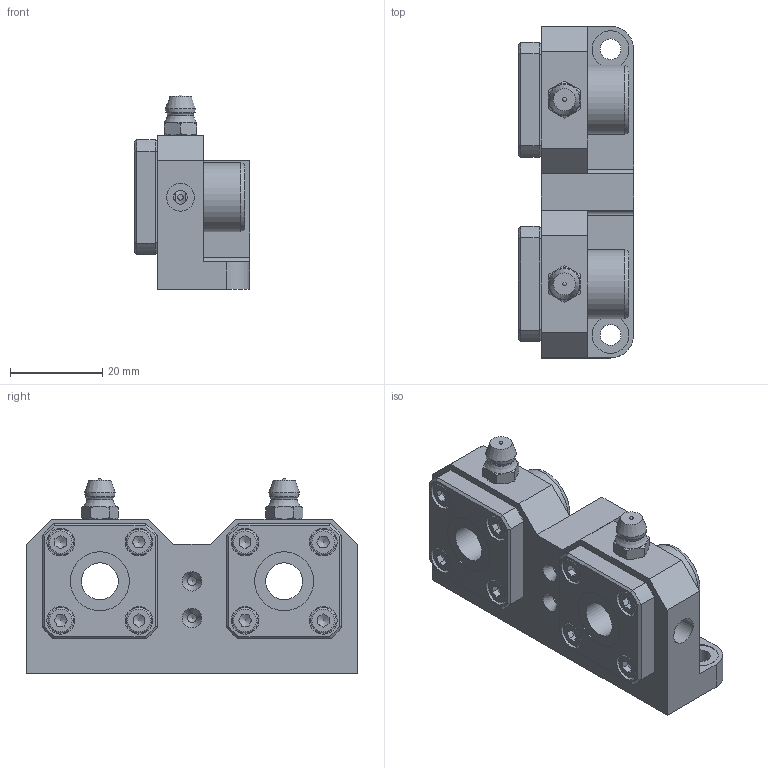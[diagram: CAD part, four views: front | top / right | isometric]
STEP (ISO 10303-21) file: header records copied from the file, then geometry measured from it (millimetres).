
FILE_DESCRIPTION((''),'2;1');
FILE_NAME('D:\製品 (図面)\カタログ用3D\リニアベアリング関連\STEP形式\LUF\LUF8.stp','2010-07-29T14:24:23',('Tsuchiya'),(''),'Autodesk Inventor 10','Autodesk Inventor 10','');
FILE_SCHEMA(('AUTOMOTIVE_DESIGN { 1 0 10303 214 1 1 1 1 }'));
Length unit declared in the file: millimetre
Products named in the file (4): LUF8; LUF81; LUF82; LUF83
Assembly tree (3 placements, depth 2):
  LUF8
    LUF81
    LUF82
    LUF83
Bounding box: 25 x 72 x 42.3 mm (x, y, z)
Volume: 35133.8 mm3; surface area: 19010.8 mm2
Topology: 13 solids, 13 shells, 342 faces, 750 edges, 470 vertices
Faces by surface type: plane 156, cylinder 78, cone 64, bspline 30, torus 10, sphere 4
Full cylindrical faces by diameter (mm): 2 x2, 3 x15, 3.5 x8, 4.5 x1, 5.5 x8, 6 x12, 8 x3, 12.8 x4, 15 x5
Entity records: 10031 total; most frequent: CARTESIAN_POINT 3343, DIRECTION 1320, ORIENTED_EDGE 1184, EDGE_CURVE 592, EDGE_LOOP 558, AXIS2_PLACEMENT_3D 557, VERTEX_POINT 440, FACE_OUTER_BOUND 342
